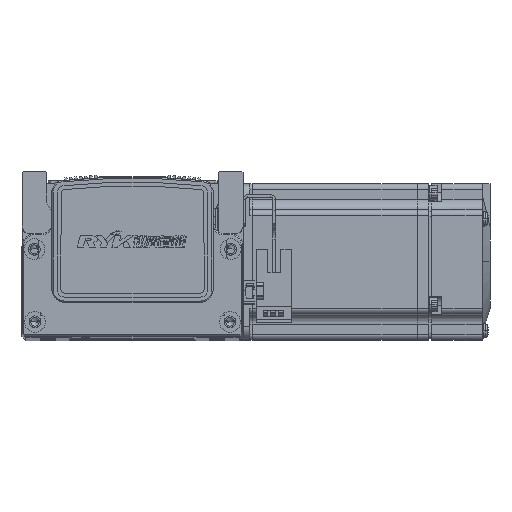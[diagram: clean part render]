
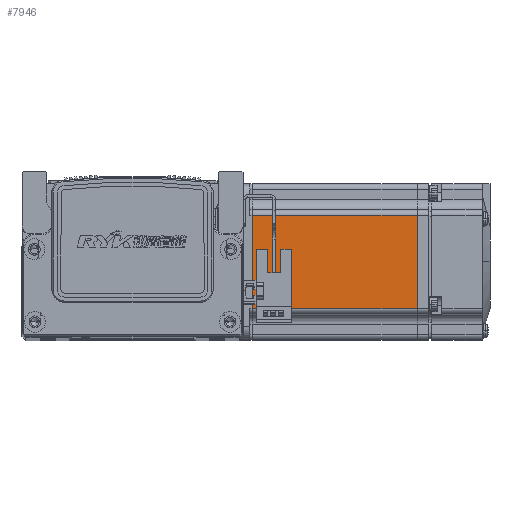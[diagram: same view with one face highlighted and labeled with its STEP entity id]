
A CAD part, top view. The second image highlights one B-rep face of the part: STEP entity #7946.
In plain terms, the highlighted planar face has unit normal (0, 0, 1) as drawn and (0, 0, -1) by its records, which use the part's own axes.
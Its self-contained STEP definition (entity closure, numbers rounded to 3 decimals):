
#7946 = ADVANCED_FACE ( 'NONE', ( #56664 ), #53374, .T. ) ;
#32396 = EDGE_LOOP ( 'NONE', ( #64863, #64833, #64862, #64883 ) ) ;
#39371 = VERTEX_POINT ( 'NONE', #76084 ) ;
#39391 = VERTEX_POINT ( 'NONE', #76071 ) ;
#39444 = VERTEX_POINT ( 'NONE', #76227 ) ;
#39469 = VERTEX_POINT ( 'NONE', #76203 ) ;
#43693 = CARTESIAN_POINT ( 'NONE',  ( -70.95, 25., -30. ) ) ;
#43697 = CARTESIAN_POINT ( 'NONE',  ( -6.5, -18., -30. ) ) ;
#43709 = DIRECTION ( 'NONE',  ( 0., 1., 0. ) ) ;
#43714 = DIRECTION ( 'NONE',  ( -1., 0., 0. ) ) ;
#43735 = DIRECTION ( 'NONE',  ( 0., -1., 0. ) ) ;
#43743 = CARTESIAN_POINT ( 'NONE',  ( -7.75, 25., -30. ) ) ;
#43802 = CARTESIAN_POINT ( 'NONE',  ( -6.5, 18., -30. ) ) ;
#43814 = DIRECTION ( 'NONE',  ( 1., 0., 0. ) ) ;
#45097 = LINE ( 'NONE', #43693, #45229 ) ;
#45127 = VECTOR ( 'NONE', #43814, 1000. ) ;
#45133 = LINE ( 'NONE', #43802, #45127 ) ;
#45142 = VECTOR ( 'NONE', #43714, 1000. ) ;
#45164 = VECTOR ( 'NONE', #43735, 1000. ) ;
#45171 = LINE ( 'NONE', #43743, #45164 ) ;
#45223 = LINE ( 'NONE', #43697, #45142 ) ;
#45229 = VECTOR ( 'NONE', #43709, 1000. ) ;
#53371 = DIRECTION ( 'NONE',  ( -1., 0., 0. ) ) ;
#53374 = PLANE ( 'NONE',  #55679 ) ;
#53378 = CARTESIAN_POINT ( 'NONE',  ( -6.5, 25., -30. ) ) ;
#53391 = DIRECTION ( 'NONE',  ( 0., 0., -1. ) ) ;
#55679 = AXIS2_PLACEMENT_3D ( 'NONE', #53378, #53391, #53371 ) ;
#56664 = FACE_OUTER_BOUND ( 'NONE', #32396, .T. ) ;
#64833 = ORIENTED_EDGE ( 'NONE', *, *, #73214, .T. ) ;
#64862 = ORIENTED_EDGE ( 'NONE', *, *, #73213, .T. ) ;
#64863 = ORIENTED_EDGE ( 'NONE', *, *, #73240, .T. ) ;
#64883 = ORIENTED_EDGE ( 'NONE', *, *, #73233, .T. ) ;
#73213 = EDGE_CURVE ( 'NONE', #39391, #39444, #45097, .T. ) ;
#73214 = EDGE_CURVE ( 'NONE', #39469, #39391, #45223, .T. ) ;
#73233 = EDGE_CURVE ( 'NONE', #39444, #39371, #45133, .T. ) ;
#73240 = EDGE_CURVE ( 'NONE', #39371, #39469, #45171, .T. ) ;
#76071 = CARTESIAN_POINT ( 'NONE',  ( -70.95, -18., -30. ) ) ;
#76084 = CARTESIAN_POINT ( 'NONE',  ( -7.75, 18., -30. ) ) ;
#76203 = CARTESIAN_POINT ( 'NONE',  ( -7.75, -18., -30. ) ) ;
#76227 = CARTESIAN_POINT ( 'NONE',  ( -70.95, 18., -30. ) ) ;
